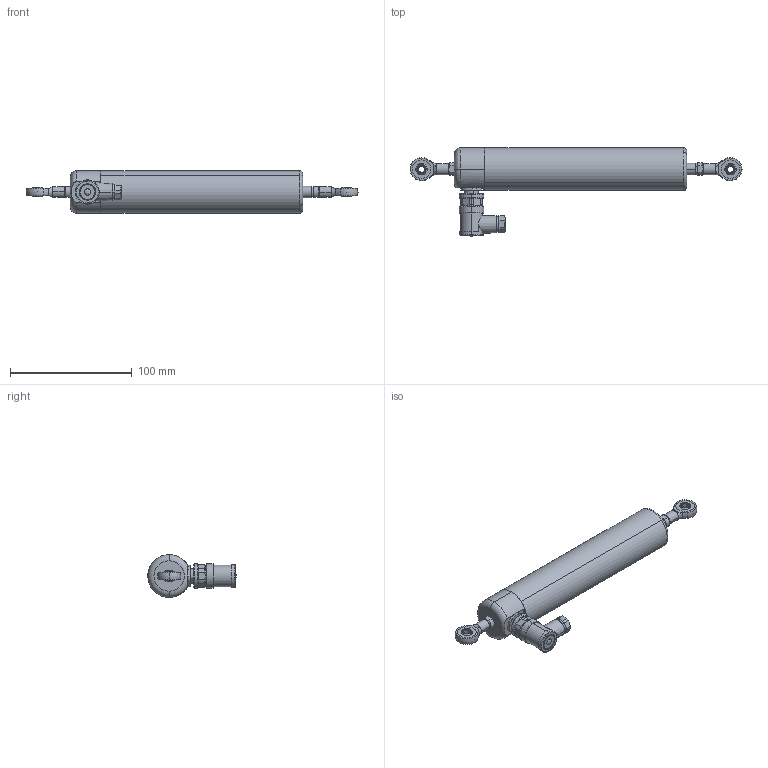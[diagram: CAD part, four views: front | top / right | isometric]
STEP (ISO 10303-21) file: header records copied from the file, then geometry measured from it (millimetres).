
FILE_DESCRIPTION (( 'STEP AP214' ), '1' );
FILE_NAME ('P101-5AKNU.STEP', '2025-04-10T10:27:39', ( '' ), ( '' ), 'SwSTEP 2.0', 'SolidWorks 2023', '' );
FILE_SCHEMA (( 'AUTOMOTIVE_DESIGN' ));
Length unit declared in the file: millimetre
Products named in the file (1): P101-5AKNU
Bounding box: 272.5 x 72.51 x 35 mm (x, y, z)
Surface area: 33485.9 mm2 (no closed solid volume)
Topology: 0 solids, 14 shells, 220 faces, 572 edges, 377 vertices
Faces by surface type: plane 81, cylinder 64, cone 38, torus 16, bspline 13, sphere 8
Entity records: 7407 total; most frequent: CARTESIAN_POINT 2110, DIRECTION 1152, ORIENTED_EDGE 1033, EDGE_CURVE 558, AXIS2_PLACEMENT_3D 487, VERTEX_POINT 371, CIRCLE 279, EDGE_LOOP 258
